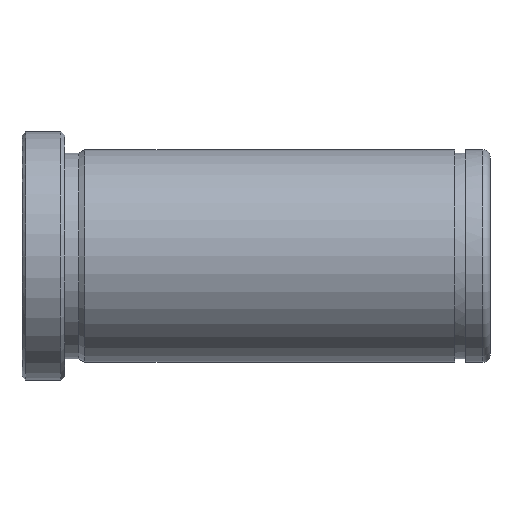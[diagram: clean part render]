
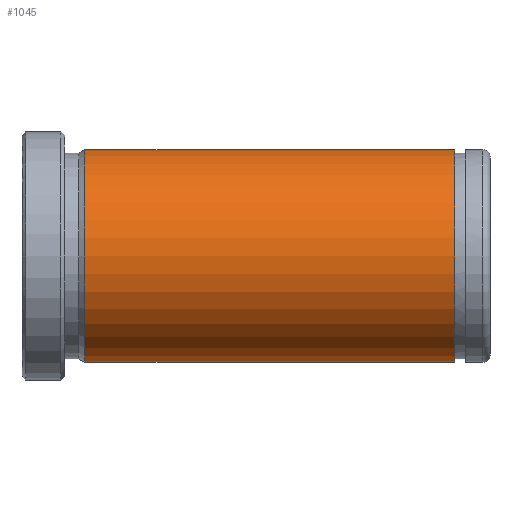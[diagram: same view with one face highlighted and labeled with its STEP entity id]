
A CAD part, front view. The second image highlights one B-rep face of the part: STEP entity #1045.
In plain terms, the highlighted cylindrical face has radius 15 mm (diameter 30 mm), a partial arc.
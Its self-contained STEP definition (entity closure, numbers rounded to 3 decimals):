
#851=CARTESIAN_POINT('Vertex',(8.866,0.,-15.)) ;
#858=CARTESIAN_POINT('Vertex',(8.866,0.,15.)) ;
#887=CARTESIAN_POINT('Axis2P3D Location',(8.866,0.,0.)) ;
#891=CARTESIAN_POINT('Vertex',(8.866,-15.,0.)) ;
#894=CARTESIAN_POINT('Axis2P3D Location',(8.866,0.,0.)) ;
#985=CARTESIAN_POINT('Line Origine',(132.,0.,15.)) ;
#989=CARTESIAN_POINT('Vertex',(61.,0.,15.)) ;
#1003=CARTESIAN_POINT('Vertex',(61.,0.,-15.)) ;
#1006=CARTESIAN_POINT('Line Origine',(132.,0.,-15.)) ;
#1020=CARTESIAN_POINT('Axis2P3D Location',(132.,0.,0.)) ;
#1025=CARTESIAN_POINT('Axis2P3D Location',(61.,0.,0.)) ;
#1029=CARTESIAN_POINT('Vertex',(61.,-15.,0.)) ;
#1032=CARTESIAN_POINT('Axis2P3D Location',(61.,0.,0.)) ;
#888=DIRECTION('Axis2P3D Direction',(1.,0.,-0.)) ;
#895=DIRECTION('Axis2P3D Direction',(1.,0.,-0.)) ;
#986=DIRECTION('Vector Direction',(-1.,0.,0.)) ;
#1007=DIRECTION('Vector Direction',(-1.,0.,0.)) ;
#1021=DIRECTION('Axis2P3D Direction',(-1.,-0.,-0.)) ;
#1022=DIRECTION('Axis2P3D XDirection',(0.,0.,-1.)) ;
#1026=DIRECTION('Axis2P3D Direction',(-1.,-0.,-0.)) ;
#1033=DIRECTION('Axis2P3D Direction',(-1.,-0.,-0.)) ;
#889=AXIS2_PLACEMENT_3D('Circle Axis2P3D',#887,#888,$) ;
#896=AXIS2_PLACEMENT_3D('Circle Axis2P3D',#894,#895,$) ;
#1023=AXIS2_PLACEMENT_3D('Cylinder Axis2P3D',#1020,#1021,#1022) ;
#1027=AXIS2_PLACEMENT_3D('Circle Axis2P3D',#1025,#1026,$) ;
#1034=AXIS2_PLACEMENT_3D('Circle Axis2P3D',#1032,#1033,$) ;
#1038=ORIENTED_EDGE('',*,*,#1010,.T.) ;
#1039=ORIENTED_EDGE('',*,*,#1031,.F.) ;
#1040=ORIENTED_EDGE('',*,*,#1036,.F.) ;
#1041=ORIENTED_EDGE('',*,*,#991,.T.) ;
#1042=ORIENTED_EDGE('',*,*,#898,.T.) ;
#1043=ORIENTED_EDGE('',*,*,#893,.T.) ;
#987=VECTOR('Line Direction',#986,1.) ;
#1008=VECTOR('Line Direction',#1007,1.) ;
#1045=ADVANCED_FACE('553-24X66',(#1044),#1024,.T.) ;
#890=CIRCLE('generated circle',#889,15.) ;
#897=CIRCLE('generated circle',#896,15.) ;
#1028=CIRCLE('generated circle',#1027,15.) ;
#1035=CIRCLE('generated circle',#1034,15.) ;
#1024=CYLINDRICAL_SURFACE('generated cylinder',#1023,15.) ;
#893=EDGE_CURVE('',#892,#852,#890,.T.) ;
#898=EDGE_CURVE('',#859,#892,#897,.T.) ;
#991=EDGE_CURVE('',#990,#859,#988,.T.) ;
#1010=EDGE_CURVE('',#852,#1004,#1009,.F.) ;
#1031=EDGE_CURVE('',#1030,#1004,#1028,.F.) ;
#1036=EDGE_CURVE('',#990,#1030,#1035,.F.) ;
#1037=EDGE_LOOP('',(#1038,#1039,#1040,#1041,#1042,#1043)) ;
#1044=FACE_OUTER_BOUND('',#1037,.T.) ;
#988=LINE('Line',#985,#987) ;
#1009=LINE('Line',#1006,#1008) ;
#852=VERTEX_POINT('',#851) ;
#859=VERTEX_POINT('',#858) ;
#892=VERTEX_POINT('',#891) ;
#990=VERTEX_POINT('',#989) ;
#1004=VERTEX_POINT('',#1003) ;
#1030=VERTEX_POINT('',#1029) ;
